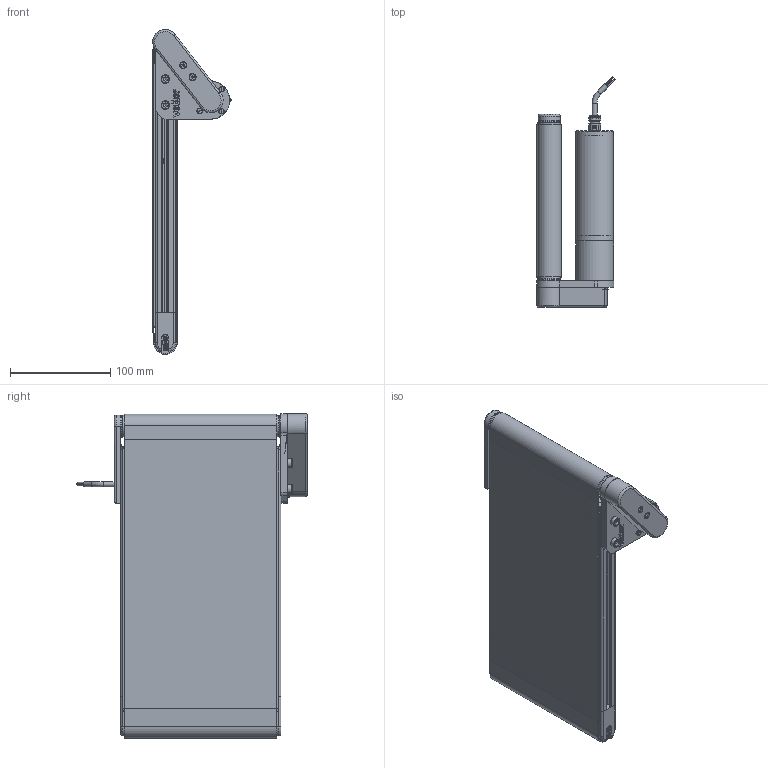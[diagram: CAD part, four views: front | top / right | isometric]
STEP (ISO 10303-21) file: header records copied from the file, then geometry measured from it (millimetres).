
FILE_DESCRIPTION(/* description */ (''),/* implementation_level */ '2;1');
FILE_NAME(/* name */ 'G:\DATEN\CAD\Förderband\Marketing\3D-Modelle (Standard)\BK-20-160\BK-20-160-1-K.stp',/* time_stamp */ '2019-05-13T08:48:09+02:00',/* author */ ('melanie.ochs'),/* organization */ (''),/* preprocessor_version */ 'ST-DEVELOPER v17',/* originating_system */ 'Autodesk Inventor 2019',/* authorisation */ '');
FILE_SCHEMA (('CONFIG_CONTROL_DESIGN'));
Products named in the file (1): BK-20-160-1-K
Bounding box: 78.42 x 230.59 x 324.51 mm (x, y, z)
Volume: 661390.5 mm3; surface area: 550082 mm2
Topology: 32 solids, 42 shells, 1204 faces, 3247 edges, 2189 vertices
Faces by surface type: plane 556, cylinder 453, cone 89, bspline 70, torus 36
Full cylindrical faces by diameter (mm): 1 x6, 2 x2, 2.459 x4, 2.5 x8, 2.729 x4, 3 x4, 3.1 x2, 3.242 x4, 3.5 x4, 4 x38, 4.134 x1, 4.3 x5, 4.4 x2, 4.917 x3, 5 x16, 5.2 x2, 5.4 x2, 6 x2, 6.773 x1, 6.917 x1, 7 x3, 8 x3, 8.5 x4, 8.773 x1, 9.5 x2, 10 x7, 11 x1, 12 x2, 16 x2, 19 x4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
Entity records: 48009 total; most frequent: CARTESIAN_POINT 16266, ORIENTED_EDGE 6464, DIRECTION 6268, EDGE_CURVE 3232, AXIS2_PLACEMENT_3D 2283, VERTEX_POINT 2189, LINE 1702, VECTOR 1702
